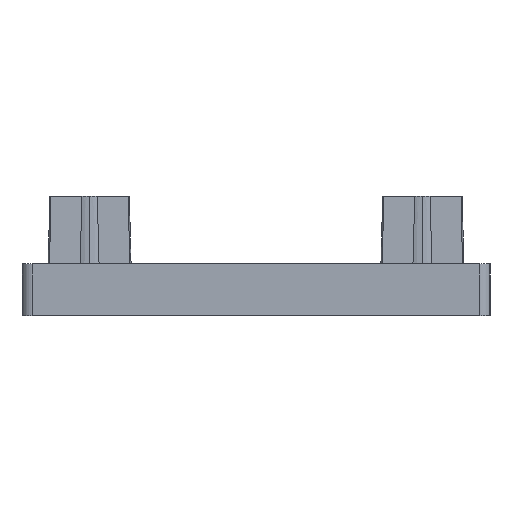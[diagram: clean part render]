
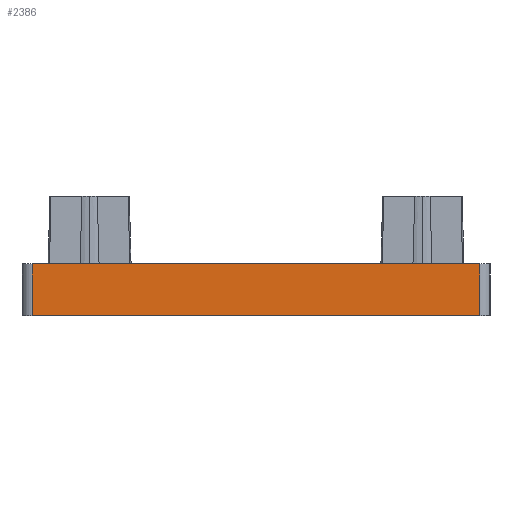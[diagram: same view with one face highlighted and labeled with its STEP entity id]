
A CAD part, left-side view. The second image highlights one B-rep face of the part: STEP entity #2386.
In plain terms, the highlighted planar face has unit normal (-1, 0, 0).
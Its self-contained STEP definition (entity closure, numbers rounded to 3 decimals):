
#45 = CARTESIAN_POINT ( 'NONE',  ( -45., 22.5, 0. ) ) ;
#108 = EDGE_CURVE ( 'NONE', #1814, #1861, #1114, .T. ) ;
#157 = LINE ( 'NONE', #346, #1216 ) ;
#249 = LINE ( 'NONE', #1157, #1790 ) ;
#259 = ORIENTED_EDGE ( 'NONE', *, *, #108, .T. ) ;
#346 = CARTESIAN_POINT ( 'NONE',  ( -45., 22.5, 5. ) ) ;
#384 = EDGE_LOOP ( 'NONE', ( #1405, #259, #834, #1219 ) ) ;
#516 = DIRECTION ( 'NONE',  ( 0., -1., 0. ) ) ;
#567 = PLANE ( 'NONE',  #2162 ) ;
#584 = DIRECTION ( 'NONE',  ( 0., 0., 1. ) ) ;
#694 = EDGE_CURVE ( 'NONE', #1861, #1395, #249, .T. ) ;
#834 = ORIENTED_EDGE ( 'NONE', *, *, #694, .T. ) ;
#899 = LINE ( 'NONE', #2229, #1097 ) ;
#935 = VECTOR ( 'NONE', #1312, 1000. ) ;
#1097 = VECTOR ( 'NONE', #1868, 1000. ) ;
#1114 = LINE ( 'NONE', #2432, #935 ) ;
#1157 = CARTESIAN_POINT ( 'NONE',  ( -45., 22.5, 0. ) ) ;
#1216 = VECTOR ( 'NONE', #516, 1000. ) ;
#1219 = ORIENTED_EDGE ( 'NONE', *, *, #1852, .T. ) ;
#1247 = EDGE_CURVE ( 'NONE', #1814, #1803, #157, .T. ) ;
#1312 = DIRECTION ( 'NONE',  ( 0., 0., -1. ) ) ;
#1395 = VERTEX_POINT ( 'NONE', #2254 ) ;
#1405 = ORIENTED_EDGE ( 'NONE', *, *, #1247, .F. ) ;
#1621 = CARTESIAN_POINT ( 'NONE',  ( -45., 21.5, 5. ) ) ;
#1703 = DIRECTION ( 'NONE',  ( -1., 0., 0. ) ) ;
#1724 = DIRECTION ( 'NONE',  ( 0., -1., 0. ) ) ;
#1790 = VECTOR ( 'NONE', #1724, 1000. ) ;
#1797 = CARTESIAN_POINT ( 'NONE',  ( -45., -21.5, 5. ) ) ;
#1803 = VERTEX_POINT ( 'NONE', #1797 ) ;
#1814 = VERTEX_POINT ( 'NONE', #1621 ) ;
#1852 = EDGE_CURVE ( 'NONE', #1395, #1803, #899, .T. ) ;
#1861 = VERTEX_POINT ( 'NONE', #2209 ) ;
#1868 = DIRECTION ( 'NONE',  ( 0., 0., 1. ) ) ;
#1879 = FACE_OUTER_BOUND ( 'NONE', #384, .T. ) ;
#2162 = AXIS2_PLACEMENT_3D ( 'NONE', #45, #1703, #584 ) ;
#2209 = CARTESIAN_POINT ( 'NONE',  ( -45., 21.5, 0. ) ) ;
#2229 = CARTESIAN_POINT ( 'NONE',  ( -45., -21.5, 0. ) ) ;
#2254 = CARTESIAN_POINT ( 'NONE',  ( -45., -21.5, 0. ) ) ;
#2386 = ADVANCED_FACE ( 'NONE', ( #1879 ), #567, .T. ) ;
#2432 = CARTESIAN_POINT ( 'NONE',  ( -45., 21.5, 0. ) ) ;
